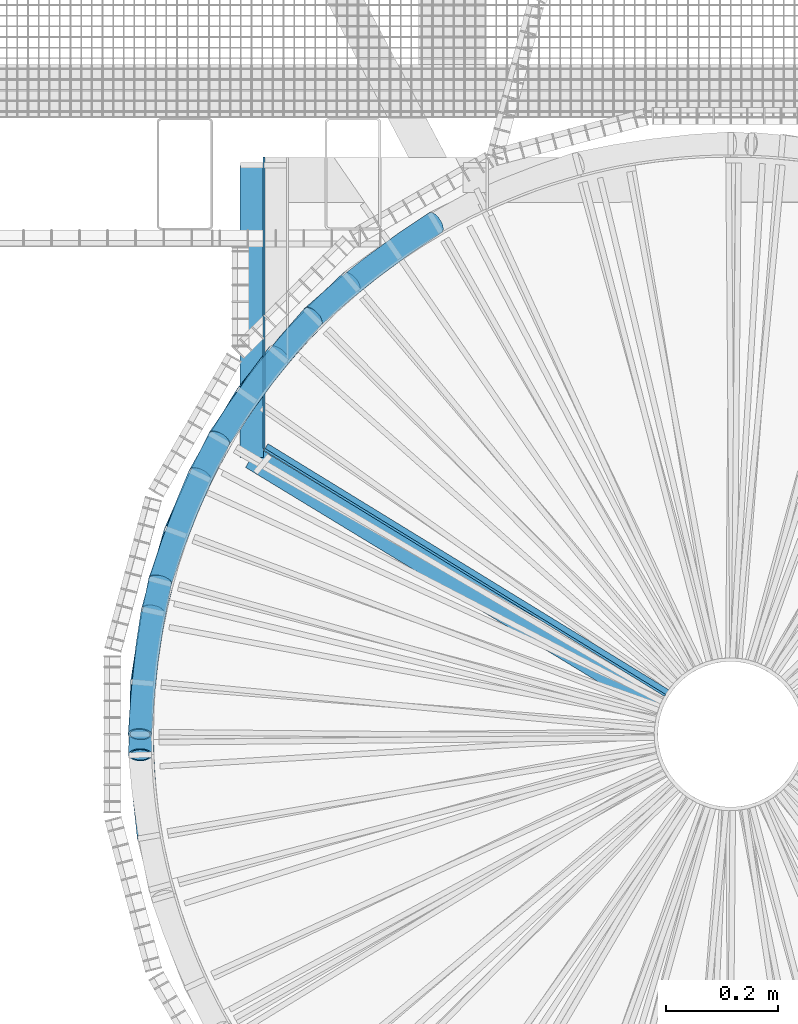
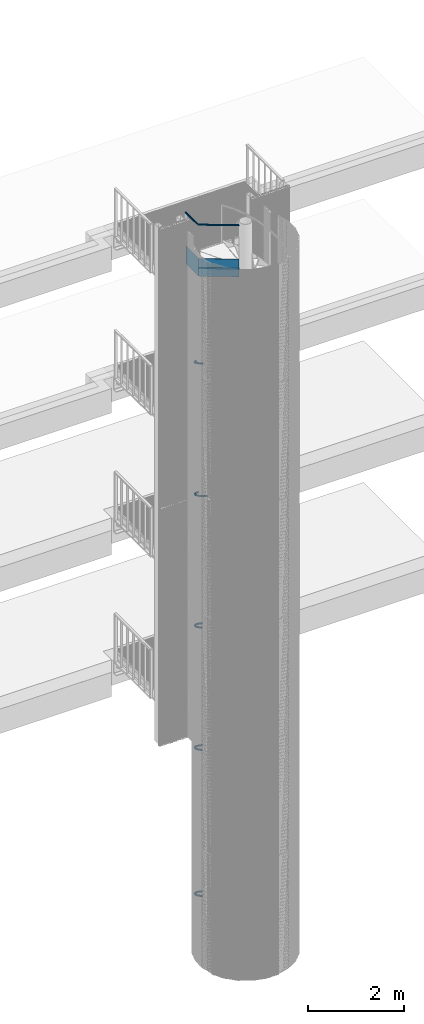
# One storey, part 223 of 1183: 19 members, 5 beams, 23 elements without a shape of their own.
"""IFC2X3 building model written with IfcOpenShell, lengths in millimetres."""

from ifc_helpers import new_model, entity, si_unit, frame, origin_with_axes, origin_2d_with_axis, place, context, subcontext, project, spatial, polyline, rectangle, hollow_circle, outline, extrude, boolean, material, type_object, element, aggregate, save


model = new_model("IFC2X3")

# Units and contexts
model_context = context("Model", 3, precision=1e-05, world=origin_with_axes())
body_context = subcontext(model_context, "Body", "Model", "MODEL_VIEW")
ifc_project = project(units=[si_unit("LENGTHUNIT", "METRE", prefix="MILLI"), si_unit("AREAUNIT", "SQUARE_METRE"), si_unit("VOLUMEUNIT", "CUBIC_METRE"), si_unit("MASSUNIT", "GRAM", prefix="KILO"), si_unit("TIMEUNIT", "SECOND"), si_unit("PLANEANGLEUNIT", "RADIAN"), si_unit("SOLIDANGLEUNIT", "STERADIAN"), si_unit("THERMODYNAMICTEMPERATUREUNIT", "DEGREE_CELSIUS"), si_unit("LUMINOUSINTENSITYUNIT", "LUMEN")], contexts=[model_context])

# Site, building, storey
site_placement = place(None, origin_with_axes())
site = spatial("IfcSite", under=ifc_project, at=site_placement, Name="Undefined", CompositionType="ELEMENT")
building_placement = place(site_placement, origin_with_axes())
building = spatial("IfcBuilding", under=site, at=building_placement, Name="Undefined", CompositionType="ELEMENT")
storey_placement = place(building_placement, origin_with_axes())
storey = spatial("IfcBuildingStorey", under=building, at=storey_placement, Name="Undefined", CompositionType="ELEMENT", Elevation=0.0)

# Assembly, beam
assembly_1_placement = place(storey_placement, origin_with_axes())
assembly_1 = element("IfcElementAssembly", 1, at=assembly_1_placement, inside=storey, Name="MAIN_COURANTE", AssemblyPlace="NOTDEFINED", PredefinedType="NOTDEFINED")
ifc_material = material(Name="STEEL/S235JR")
beam_type_1 = type_object("IfcBeamType", Name="TUBE-42.4*3.2", PredefinedType="NOTDEFINED")
beam_1_placement = place(assembly_1_placement, frame((-84.9748462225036, 26.4035149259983, 18389.8400000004), z_axis=(-0.51937688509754, -0.854545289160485, 0.0), x_axis=(-0.854545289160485, 0.51937688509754, 0.0)))
beam_1 = element("IfcBeam", 2, at=beam_1_placement, type_object=beam_type_1, material=ifc_material, Name="MAIN_COURANTE", context=body_context, shape_type="CSG", body=[
    boolean("DIFFERENCE", extrude(hollow_circle(Radius=21.200000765, WallThickness=3.200000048, at=origin_2d_with_axis()), frame((900.837210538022, 0.0, 0.0), z_axis=(-1.0, 0.0, 0.0), x_axis=(0.0, -1.0, 0.0)), (0.0, 0.0, 1.0), 900.84), extrude(outline(polyline([(0.0, 0.0), (30.5663019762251, -4.91127138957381e-11), (60.366242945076, 6.80164206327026), (87.9055294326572, 20.0638634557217), (111.803226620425, 39.1216410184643), (130.861004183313, 63.0193382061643), (144.123225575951, 90.5586246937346), (150.9248676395, 120.358565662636), (150.924867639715, 150.924867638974), (144.123225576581, 180.724808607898), (130.86100418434, 208.264095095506), (111.803226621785, 232.161792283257), (87.9055294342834, 251.219569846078), (60.3662429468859, 264.481791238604), (30.5663019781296, 271.283433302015), (1.90266291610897e-09, 271.28343330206), (-29.7999409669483, 264.481791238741), (-57.3392274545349, 251.219569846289), (-81.2369246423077, 232.161792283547), (-100.294702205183, 208.26409509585), (-113.556923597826, 180.724808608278), (-120.35856566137, 150.92486763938), (-120.358565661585, 120.358565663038), (-113.556923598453, 90.5586246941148), (-100.294702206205, 63.0193382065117), (-81.2369246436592, 39.1216410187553), (-57.3392274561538, 20.0638634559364), (-29.7999409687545, 6.80164206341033), (0.0, 0.0)])), frame((32.0484067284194, 24.0, 46.3938862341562), z_axis=(0.0, -1.0, 0.0), x_axis=(-0.591879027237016, 0.0, 0.806026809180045)), (0.0, 0.0, 1.0), 48.0)),
])
aggregate(assembly_1, [beam_1])

assembly_2_placement = place(storey_placement, origin_with_axes())
assembly_2 = element("IfcElementAssembly", 3, at=assembly_2_placement, inside=storey, Name="MAIN_COURANTE", AssemblyPlace="NOTDEFINED", PredefinedType="NOTDEFINED")
beam_2_placement = place(assembly_2_placement, frame((-854.781040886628, 494.277539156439, 18389.8400000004), z_axis=(-0.999999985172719, -0.000172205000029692, 0.0), x_axis=(-0.000172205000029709, 0.999999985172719, 0.0)))
beam_2 = element("IfcBeam", 4, at=beam_2_placement, type_object=beam_type_1, material=ifc_material, Name="MAIN_COURANTE", context=body_context, shape_type="SweptSolid", body=[
    extrude(hollow_circle(Radius=21.200000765, WallThickness=3.200000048, at=origin_2d_with_axis()), frame((521.092468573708, 3.63797880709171e-12, 0.0), z_axis=(-1.0, 0.0, 0.0), x_axis=(0.0, -1.0, 0.0)), (0.0, 0.0, 1.0), 521.09),
])
aggregate(assembly_2, [beam_2])

assembly_3_placement = place(storey_placement, origin_with_axes())
assembly_3 = element("IfcElementAssembly", 5, at=assembly_3_placement, inside=storey, Name="POTEAU", AssemblyPlace="NOTDEFINED", PredefinedType="NOTDEFINED")
beam_type_2 = type_object("IfcBeamType", Name="PL10*40", PredefinedType="NOTDEFINED")
beam_3_placement = place(assembly_3_placement, frame((-68.8944826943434, 48.1595929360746, 17265.96), z_axis=(0.0, 0.0, 1.0), x_axis=(-0.852231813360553, 0.523164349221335, 0.0)))
beam_3 = element("IfcBeam", 6, at=beam_3_placement, type_object=beam_type_2, material=ifc_material, Name="RAIDISSEUR", context=body_context, shape_type="CSG", body=[
    boolean("DIFFERENCE", extrude(rectangle(XDim=10.0, YDim=40.0, at=origin_2d_with_axis()), frame((891.021953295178, 1.8684510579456e-12, 3.63797880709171e-12), z_axis=(-1.0, 0.0, 0.0), x_axis=(0.0, -1.0, 0.0)), (0.0, 0.0, 1.0), 891.02), extrude(outline(polyline([(0.0, 0.0), (30.5663019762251, -4.91127138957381e-11), (60.366242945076, 6.80164206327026), (87.9055294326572, 20.0638634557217), (111.803226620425, 39.1216410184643), (130.861004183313, 63.0193382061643), (144.123225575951, 90.5586246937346), (150.9248676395, 120.358565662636), (150.924867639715, 150.924867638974), (144.123225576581, 180.724808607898), (130.86100418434, 208.264095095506), (111.803226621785, 232.161792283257), (87.9055294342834, 251.219569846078), (60.3662429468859, 264.481791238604), (30.5663019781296, 271.283433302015), (1.90266291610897e-09, 271.28343330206), (-29.7999409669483, 264.481791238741), (-57.3392274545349, 251.219569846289), (-81.2369246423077, 232.161792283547), (-100.294702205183, 208.26409509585), (-113.556923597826, 180.724808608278), (-120.35856566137, 150.92486763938), (-120.358565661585, 120.358565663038), (-113.556923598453, 90.5586246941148), (-100.294702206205, 63.0193382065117), (-81.2369246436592, 39.1216410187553), (-57.3392274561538, 20.0638634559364), (-29.7999409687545, 6.80164206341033), (0.0, 0.0)])), frame((34.1643821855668, 73.4895589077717, -22.5), z_axis=(0.0, 0.0, 1.0), x_axis=(-0.595450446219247, 0.803392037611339, 0.0)), (0.0, 0.0, 1.0), 45.0)),
])

assembly_4_placement = place(storey_placement, origin_with_axes())
assembly_4 = element("IfcElementAssembly", 7, at=assembly_4_placement, inside=storey, AssemblyPlace="NOTDEFINED", PredefinedType="NOTDEFINED")
beam_type_3 = type_object("IfcBeamType", Name="PLT4*450", PredefinedType="NOTDEFINED")
beam_4_placement = place(assembly_4_placement, frame((-61.5022689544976, 35.4079653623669, 17289.84), z_axis=(0.0, 0.0, 1.0), x_axis=(-0.852229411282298, 0.523168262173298, 0.0)))
beam_4 = element("IfcBeam", 8, at=beam_4_placement, type_object=beam_type_3, material=ifc_material, Name="GARDE_PIED", context=body_context, shape_type="CSG", body=[
    boolean("DIFFERENCE", extrude(rectangle(XDim=4.0, YDim=450.0, at=origin_2d_with_axis()), frame((903.993020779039, 0.0, 0.0), z_axis=(-1.0, 0.0, 0.0), x_axis=(0.0, -1.0, 0.0)), (0.0, 0.0, 1.0), 903.99), extrude(outline(polyline([(0.0, 0.0), (30.5663019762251, -4.91127138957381e-11), (60.366242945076, 6.80164206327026), (87.9055294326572, 20.0638634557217), (111.803226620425, 39.1216410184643), (130.861004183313, 63.0193382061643), (144.123225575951, 90.5586246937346), (150.9248676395, 120.358565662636), (150.924867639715, 150.924867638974), (144.123225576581, 180.724808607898), (130.86100418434, 208.264095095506), (111.803226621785, 232.161792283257), (87.9055294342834, 251.219569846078), (60.3662429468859, 264.481791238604), (30.5663019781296, 271.283433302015), (1.90266291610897e-09, 271.28343330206), (-29.7999409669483, 264.481791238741), (-57.3392274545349, 251.219569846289), (-81.2369246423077, 232.161792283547), (-100.294702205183, 208.26409509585), (-113.556923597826, 180.724808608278), (-120.35856566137, 150.92486763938), (-120.358565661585, 120.358565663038), (-113.556923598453, 90.5586246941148), (-100.294702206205, 63.0193382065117), (-81.2369246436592, 39.1216410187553), (-57.3392274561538, 20.0638634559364), (-29.7999409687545, 6.80164206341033), (0.0, 0.0)])), frame((47.1351535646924, 66.489775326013, -227.5), z_axis=(0.0, 0.0, 1.0), x_axis=(-0.595454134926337, 0.803389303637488, 0.0)), (0.0, 0.0, 1.0), 455.0)),
])
aggregate(assembly_4, [beam_4])

# Beam
beam_5_placement = place(assembly_3_placement, frame((-832.864575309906, 510.050600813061, 17289.84), z_axis=(0.0, 0.0, 1.0), x_axis=(-1.04319999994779e-05, 0.999999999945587, 0.0)))
beam_5 = element("IfcBeam", 9, at=beam_5_placement, type_object=beam_type_3, material=ifc_material, Name="GARDE_PIED", context=body_context, shape_type="SweptSolid", body=[
    extrude(rectangle(XDim=4.0, YDim=450.0, at=origin_2d_with_axis()), frame((519.965544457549, 3.63797880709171e-12, 0.0), z_axis=(-1.0, 0.0, 0.0), x_axis=(0.0, -1.0, 0.0)), (0.0, 0.0, 1.0), 519.97),
])

aggregate(assembly_3, [beam_3, beam_5])

# Assembly, member
assembly_5_placement = place(storey_placement, origin_with_axes())
assembly_5 = element("IfcElementAssembly", 10, at=assembly_5_placement, inside=storey, Name="MONTANT", AssemblyPlace="NOTDEFINED", PredefinedType="NOTDEFINED")
member_type = type_object("IfcMemberType", Name="TUBE-42.4*3.2", PredefinedType="NOTDEFINED")
member_1_placement = place(assembly_5_placement, frame((-1018.08582091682, 272.795273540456, 5272.03999999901), z_axis=(-0.991444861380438, 0.130526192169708, 6.66032065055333e-11), x_axis=(-0.113807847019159, -0.864456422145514, 0.489655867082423)))
member_1 = element("IfcMember", 11, at=member_1_placement, type_object=member_type, material=ifc_material, Name="MAIN_COURANTE", context=body_context, shape_type="SweptSolid", body=[
    entity("IfcRevolvedAreaSolid", entity("IfcCircleHollowProfileDef", "AREA", None, entity("IfcAxis2Placement2D", entity("IfcCartesianPoint", [0.0, 0.0]), entity("IfcDirection", [1.0, 0.0])), 21.200000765, 3.200000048), entity("IfcAxis2Placement3D", entity("IfcCartesianPoint", [315.568566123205, -9.09494701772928e-13, -1.31255851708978e-15]), entity("IfcDirection", [-0.997194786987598, -4.44488503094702e-18, 0.0748502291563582]), entity("IfcDirection", [0.0, -1.0, 0.0])), entity("IfcAxis1Placement", entity("IfcCartesianPoint", [0.0, -2108.0, 0.0]), entity("IfcDirection", [1.0, 0.0, 0.0])), 0.149840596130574),
])
aggregate(assembly_5, [member_1])

assembly_6_placement = place(storey_placement, origin_with_axes())
assembly_6 = element("IfcElementAssembly", 12, at=assembly_6_placement, inside=storey, Name="MONTANT", AssemblyPlace="NOTDEFINED", PredefinedType="NOTDEFINED")
member_2_placement = place(assembly_6_placement, frame((-912.79077557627, 526.999999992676, 5117.51999999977), z_axis=(-0.923879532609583, 0.382683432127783, 1.50203049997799e-10), x_axis=(-0.333667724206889, -0.805545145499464, 0.489655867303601)))
member_2 = element("IfcMember", 13, at=member_2_placement, type_object=member_type, material=ifc_material, Name="MAIN_COURANTE", context=body_context, shape_type="SweptSolid", body=[
    entity("IfcRevolvedAreaSolid", entity("IfcCircleHollowProfileDef", "AREA", None, entity("IfcAxis2Placement2D", entity("IfcCartesianPoint", [0.0, 0.0]), entity("IfcDirection", [1.0, 0.0])), 21.200000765, 3.200000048), entity("IfcAxis2Placement3D", entity("IfcCartesianPoint", [315.568566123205, -9.09494701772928e-13, -1.31255851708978e-15]), entity("IfcDirection", [-0.997194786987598, -4.44488503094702e-18, 0.0748502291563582]), entity("IfcDirection", [0.0, -1.0, 0.0])), entity("IfcAxis1Placement", entity("IfcCartesianPoint", [0.0, -2108.0, 0.0]), entity("IfcDirection", [1.0, 0.0, 0.0])), 0.149840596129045),
])
aggregate(assembly_6, [member_2])

assembly_7_placement = place(storey_placement, origin_with_axes())
assembly_7 = element("IfcElementAssembly", 14, at=assembly_7_placement, inside=storey, Name="MONTANT", AssemblyPlace="NOTDEFINED", PredefinedType="NOTDEFINED")
member_3_placement = place(assembly_7_placement, frame((-745.290547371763, 745.290547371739, 4963.00000000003), z_axis=(-0.793353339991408, 0.608761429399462, 1.80913048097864e-10), x_axis=(-0.53078869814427, -0.691737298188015, 0.489655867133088)))
member_3 = element("IfcMember", 15, at=member_3_placement, type_object=member_type, material=ifc_material, Name="MAIN_COURANTE", context=body_context, shape_type="SweptSolid", body=[
    entity("IfcRevolvedAreaSolid", entity("IfcCircleHollowProfileDef", "AREA", None, entity("IfcAxis2Placement2D", entity("IfcCartesianPoint", [0.0, 0.0]), entity("IfcDirection", [1.0, 0.0])), 21.200000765, 3.200000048), entity("IfcAxis2Placement3D", entity("IfcCartesianPoint", [315.568566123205, -9.09494701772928e-13, -1.31255851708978e-15]), entity("IfcDirection", [-0.997194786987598, -4.44488503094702e-18, 0.0748502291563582]), entity("IfcDirection", [0.0, -1.0, 0.0])), entity("IfcAxis1Placement", entity("IfcCartesianPoint", [0.0, -2108.0, 0.0]), entity("IfcDirection", [1.0, 0.0, 0.0])), 0.149840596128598),
])
aggregate(assembly_7, [member_3])

assembly_8_placement = place(storey_placement, origin_with_axes())
assembly_8 = element("IfcElementAssembly", 16, at=assembly_8_placement, inside=storey, Name="MONTANT", AssemblyPlace="NOTDEFINED", PredefinedType="NOTDEFINED")
member_4_placement = place(assembly_8_placement, frame((-527.000000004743, 912.790775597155, 4808.47999999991), z_axis=(-0.608761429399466, 0.793353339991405, -1.80915321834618e-10), x_axis=(-0.691737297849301, -0.530788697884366, 0.489655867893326)))
member_4 = element("IfcMember", 17, at=member_4_placement, type_object=member_type, material=ifc_material, Name="MAIN_COURANTE", context=body_context, shape_type="SweptSolid", body=[
    entity("IfcRevolvedAreaSolid", entity("IfcCircleHollowProfileDef", "AREA", None, entity("IfcAxis2Placement2D", entity("IfcCartesianPoint", [0.0, 0.0]), entity("IfcDirection", [1.0, 0.0])), 21.200000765, 3.200000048), entity("IfcAxis2Placement3D", entity("IfcCartesianPoint", [315.568566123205, -9.09494701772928e-13, -1.31255851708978e-15]), entity("IfcDirection", [-0.997194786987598, -4.44488503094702e-18, 0.0748502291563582]), entity("IfcDirection", [0.0, -1.0, 0.0])), entity("IfcAxis1Placement", entity("IfcCartesianPoint", [0.0, -2108.0, 0.0]), entity("IfcDirection", [1.0, 0.0, 0.0])), 0.149840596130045),
])
aggregate(assembly_8, [member_4])

assembly_9_placement = place(storey_placement, origin_with_axes())
assembly_9 = element("IfcElementAssembly", 18, at=assembly_9_placement, inside=storey, Name="MONTANT", AssemblyPlace="NOTDEFINED", PredefinedType="NOTDEFINED")
member_5_placement = place(assembly_9_placement, frame((-1018.08582091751, 272.795273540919, 8372.60000000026), z_axis=(-0.991444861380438, 0.130526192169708, 6.66032065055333e-11), x_axis=(-0.113454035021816, -0.861768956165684, 0.494451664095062)))
member_5 = element("IfcMember", 19, at=member_5_placement, type_object=member_type, material=ifc_material, Name="MAIN_COURANTE", context=body_context, shape_type="SweptSolid", body=[
    entity("IfcRevolvedAreaSolid", entity("IfcCircleHollowProfileDef", "AREA", None, entity("IfcAxis2Placement2D", entity("IfcCartesianPoint", [0.0, 0.0]), entity("IfcDirection", [1.0, 0.0])), 21.200000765, 3.200000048), entity("IfcAxis2Placement3D", entity("IfcCartesianPoint", [316.552681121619, 9.09494701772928e-13, -1.82569453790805e-12]), entity("IfcDirection", [-0.997177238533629, 2.1263748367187e-18, 0.0750836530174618]), entity("IfcDirection", [0.0, -1.0, 0.0])), entity("IfcAxis1Placement", entity("IfcCartesianPoint", [0.0, -2108.0, 0.0]), entity("IfcDirection", [1.0, 0.0, 0.0])), 0.150308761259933),
])
aggregate(assembly_9, [member_5])

assembly_10_placement = place(storey_placement, origin_with_axes())
assembly_10 = element("IfcElementAssembly", 20, at=assembly_10_placement, inside=storey, Name="MONTANT", AssemblyPlace="NOTDEFINED", PredefinedType="NOTDEFINED")
member_6_placement = place(assembly_10_placement, frame((-912.79077559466, 527.000000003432, 8216.07999999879), z_axis=(-0.923879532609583, 0.382683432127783, 1.50203049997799e-10), x_axis=(-0.332630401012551, -0.803040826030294, 0.494451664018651)))
member_6 = element("IfcMember", 21, at=member_6_placement, type_object=member_type, material=ifc_material, Name="MAIN_COURANTE", context=body_context, shape_type="SweptSolid", body=[
    entity("IfcRevolvedAreaSolid", entity("IfcCircleHollowProfileDef", "AREA", None, entity("IfcAxis2Placement2D", entity("IfcCartesianPoint", [0.0, 0.0]), entity("IfcDirection", [1.0, 0.0])), 21.200000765, 3.200000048), entity("IfcAxis2Placement3D", entity("IfcCartesianPoint", [316.552681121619, 9.09494701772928e-13, -1.82569453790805e-12]), entity("IfcDirection", [-0.997177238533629, 2.1263748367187e-18, 0.0750836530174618]), entity("IfcDirection", [0.0, -1.0, 0.0])), entity("IfcAxis1Placement", entity("IfcCartesianPoint", [0.0, -2108.0, 0.0]), entity("IfcDirection", [1.0, 0.0, 0.0])), 0.150308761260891),
])
aggregate(assembly_10, [member_6])

assembly_11_placement = place(storey_placement, origin_with_axes())
assembly_11 = element("IfcElementAssembly", 22, at=assembly_11_placement, inside=storey, Name="MONTANT", AssemblyPlace="NOTDEFINED", PredefinedType="NOTDEFINED")
member_7_placement = place(assembly_11_placement, frame((-745.290547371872, 745.290547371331, 8059.55999999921), z_axis=(-0.793353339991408, 0.608761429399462, 1.80913048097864e-10), x_axis=(-0.5291385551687, -0.689586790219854, 0.49445166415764)))
member_7 = element("IfcMember", 23, at=member_7_placement, type_object=member_type, material=ifc_material, Name="MAIN_COURANTE", context=body_context, shape_type="SweptSolid", body=[
    entity("IfcRevolvedAreaSolid", entity("IfcCircleHollowProfileDef", "AREA", None, entity("IfcAxis2Placement2D", entity("IfcCartesianPoint", [0.0, 0.0]), entity("IfcDirection", [1.0, 0.0])), 21.200000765, 3.200000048), entity("IfcAxis2Placement3D", entity("IfcCartesianPoint", [316.552681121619, 9.09494701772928e-13, -1.82569453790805e-12]), entity("IfcDirection", [-0.997177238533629, 2.1263748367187e-18, 0.0750836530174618]), entity("IfcDirection", [0.0, -1.0, 0.0])), entity("IfcAxis1Placement", entity("IfcCartesianPoint", [0.0, -2108.0, 0.0]), entity("IfcDirection", [1.0, 0.0, 0.0])), 0.150308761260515),
])
aggregate(assembly_11, [member_7])

assembly_12_placement = place(storey_placement, origin_with_axes())
assembly_12 = element("IfcElementAssembly", 24, at=assembly_12_placement, inside=storey, Name="MONTANT", AssemblyPlace="NOTDEFINED", PredefinedType="NOTDEFINED")
member_8_placement = place(assembly_12_placement, frame((-1049.98921176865, 91.8621528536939, 11816.0800000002), z_axis=(-0.999048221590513, -0.0436193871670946, 1.05123035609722e-10), x_axis=(0.0379141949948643, -0.868377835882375, 0.494451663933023)))
member_8 = element("IfcMember", 25, at=member_8_placement, type_object=member_type, material=ifc_material, Name="MAIN_COURANTE", context=body_context, shape_type="SweptSolid", body=[
    entity("IfcRevolvedAreaSolid", entity("IfcCircleHollowProfileDef", "AREA", None, entity("IfcAxis2Placement2D", entity("IfcCartesianPoint", [0.0, 0.0]), entity("IfcDirection", [1.0, 0.0])), 21.200000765, 3.200000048), entity("IfcAxis2Placement3D", entity("IfcCartesianPoint", [316.552681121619, 9.09494701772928e-13, -1.82569453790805e-12]), entity("IfcDirection", [-0.997177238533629, 2.1263748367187e-18, 0.0750836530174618]), entity("IfcDirection", [0.0, -1.0, 0.0])), entity("IfcAxis1Placement", entity("IfcCartesianPoint", [0.0, -2108.0, 0.0]), entity("IfcDirection", [1.0, 0.0, 0.0])), 0.15030876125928),
])
aggregate(assembly_12, [member_8])

assembly_13_placement = place(storey_placement, origin_with_axes())
assembly_13 = element("IfcElementAssembly", 26, at=assembly_13_placement, inside=storey, Name="MONTANT", AssemblyPlace="NOTDEFINED", PredefinedType="NOTDEFINED")
member_9_placement = place(assembly_13_placement, frame((-990.43602230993, 360.489231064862, 11659.5600000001), z_axis=(-0.97629600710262, 0.216439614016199, 3.63797880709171e-12), x_axis=(-0.188130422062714, -0.848601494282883, 0.494451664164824)))
member_9 = element("IfcMember", 27, at=member_9_placement, type_object=member_type, material=ifc_material, Name="MAIN_COURANTE", context=body_context, shape_type="SweptSolid", body=[
    entity("IfcRevolvedAreaSolid", entity("IfcCircleHollowProfileDef", "AREA", None, entity("IfcAxis2Placement2D", entity("IfcCartesianPoint", [0.0, 0.0]), entity("IfcDirection", [1.0, 0.0])), 21.200000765, 3.200000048), entity("IfcAxis2Placement3D", entity("IfcCartesianPoint", [316.552681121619, 9.09494701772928e-13, -1.82569453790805e-12]), entity("IfcDirection", [-0.997177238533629, 2.1263748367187e-18, 0.0750836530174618]), entity("IfcDirection", [0.0, -1.0, 0.0])), entity("IfcAxis1Placement", entity("IfcCartesianPoint", [0.0, -2108.0, 0.0]), entity("IfcDirection", [1.0, 0.0, 0.0])), 0.150308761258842),
])
aggregate(assembly_13, [member_9])

assembly_14_placement = place(storey_placement, origin_with_axes())
assembly_14 = element("IfcElementAssembly", 28, at=assembly_14_placement, inside=storey, Name="MONTANT", AssemblyPlace="NOTDEFINED", PredefinedType="NOTDEFINED")
member_10_placement = place(assembly_14_placement, frame((-1018.08582091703, 272.79527354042, 1563.55999999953), z_axis=(-0.991444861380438, 0.130526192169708, 6.66032065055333e-11), x_axis=(-0.113807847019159, -0.864456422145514, 0.489655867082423)))
member_10 = element("IfcMember", 29, at=member_10_placement, type_object=member_type, material=ifc_material, Name="MAIN_COURANTE", context=body_context, shape_type="SweptSolid", body=[
    entity("IfcRevolvedAreaSolid", entity("IfcCircleHollowProfileDef", "AREA", None, entity("IfcAxis2Placement2D", entity("IfcCartesianPoint", [0.0, 0.0]), entity("IfcDirection", [1.0, 0.0])), 21.200000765, 3.200000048), entity("IfcAxis2Placement3D", entity("IfcCartesianPoint", [315.568566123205, -9.09494701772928e-13, -1.31255851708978e-15]), entity("IfcDirection", [-0.997194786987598, -4.44488503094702e-18, 0.0748502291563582]), entity("IfcDirection", [0.0, -1.0, 0.0])), entity("IfcAxis1Placement", entity("IfcCartesianPoint", [0.0, -2108.0, 0.0]), entity("IfcDirection", [1.0, 0.0, 0.0])), 0.149840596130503),
])
aggregate(assembly_14, [member_10])

assembly_15_placement = place(storey_placement, origin_with_axes())
assembly_15 = element("IfcElementAssembly", 30, at=assembly_15_placement, inside=storey, Name="MONTANT", AssemblyPlace="NOTDEFINED", PredefinedType="NOTDEFINED")
member_11_placement = place(assembly_15_placement, frame((-912.790775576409, 526.999999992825, 1409.03999999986), z_axis=(-0.923879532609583, 0.382683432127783, 1.50203049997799e-10), x_axis=(-0.333667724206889, -0.805545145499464, 0.489655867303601)))
member_11 = element("IfcMember", 31, at=member_11_placement, type_object=member_type, material=ifc_material, Name="MAIN_COURANTE", context=body_context, shape_type="SweptSolid", body=[
    entity("IfcRevolvedAreaSolid", entity("IfcCircleHollowProfileDef", "AREA", None, entity("IfcAxis2Placement2D", entity("IfcCartesianPoint", [0.0, 0.0]), entity("IfcDirection", [1.0, 0.0])), 21.200000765, 3.200000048), entity("IfcAxis2Placement3D", entity("IfcCartesianPoint", [315.568566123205, -9.09494701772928e-13, -1.31255851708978e-15]), entity("IfcDirection", [-0.997194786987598, -4.44488503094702e-18, 0.0748502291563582]), entity("IfcDirection", [0.0, -1.0, 0.0])), entity("IfcAxis1Placement", entity("IfcCartesianPoint", [0.0, -2108.0, 0.0]), entity("IfcDirection", [1.0, 0.0, 0.0])), 0.149840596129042),
])
aggregate(assembly_15, [member_11])

assembly_16_placement = place(storey_placement, origin_with_axes())
assembly_16 = element("IfcElementAssembly", 32, at=assembly_16_placement, inside=storey, Name="MONTANT", AssemblyPlace="NOTDEFINED", PredefinedType="NOTDEFINED")
member_12_placement = place(assembly_16_placement, frame((-745.290547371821, 745.290547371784, 1254.51999999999), z_axis=(-0.793353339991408, 0.608761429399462, 1.80913048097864e-10), x_axis=(-0.53078869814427, -0.691737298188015, 0.489655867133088)))
member_12 = element("IfcMember", 33, at=member_12_placement, type_object=member_type, material=ifc_material, Name="MAIN_COURANTE", context=body_context, shape_type="SweptSolid", body=[
    entity("IfcRevolvedAreaSolid", entity("IfcCircleHollowProfileDef", "AREA", None, entity("IfcAxis2Placement2D", entity("IfcCartesianPoint", [0.0, 0.0]), entity("IfcDirection", [1.0, 0.0])), 21.200000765, 3.200000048), entity("IfcAxis2Placement3D", entity("IfcCartesianPoint", [315.568566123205, -9.09494701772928e-13, -1.31255851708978e-15]), entity("IfcDirection", [-0.997194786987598, -4.44488503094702e-18, 0.0748502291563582]), entity("IfcDirection", [0.0, -1.0, 0.0])), entity("IfcAxis1Placement", entity("IfcCartesianPoint", [0.0, -2108.0, 0.0]), entity("IfcDirection", [1.0, 0.0, 0.0])), 0.14984059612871),
])
aggregate(assembly_16, [member_12])

assembly_17_placement = place(storey_placement, origin_with_axes())
assembly_17 = element("IfcElementAssembly", 34, at=assembly_17_placement, inside=storey, Name="MONTANT", AssemblyPlace="NOTDEFINED", PredefinedType="NOTDEFINED")
member_13_placement = place(assembly_17_placement, frame((-527.000000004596, 912.790775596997, 1100.00000000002), z_axis=(-0.608761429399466, 0.793353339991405, -1.80915321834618e-10), x_axis=(-0.691737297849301, -0.530788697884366, 0.489655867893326)))
member_13 = element("IfcMember", 35, at=member_13_placement, type_object=member_type, material=ifc_material, Name="MAIN_COURANTE", context=body_context, shape_type="SweptSolid", body=[
    entity("IfcRevolvedAreaSolid", entity("IfcCircleHollowProfileDef", "AREA", None, entity("IfcAxis2Placement2D", entity("IfcCartesianPoint", [0.0, 0.0]), entity("IfcDirection", [1.0, 0.0])), 21.200000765, 3.200000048), entity("IfcAxis2Placement3D", entity("IfcCartesianPoint", [315.568566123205, -9.09494701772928e-13, -1.31255851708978e-15]), entity("IfcDirection", [-0.997194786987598, -4.44488503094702e-18, 0.0748502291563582]), entity("IfcDirection", [0.0, -1.0, 0.0])), entity("IfcAxis1Placement", entity("IfcCartesianPoint", [0.0, -2108.0, 0.0]), entity("IfcDirection", [1.0, 0.0, 0.0])), 0.149840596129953),
])
aggregate(assembly_17, [member_13])

assembly_18_placement = place(storey_placement, origin_with_axes())
assembly_18 = element("IfcElementAssembly", 36, at=assembly_18_placement, inside=storey, Name="MONTANT", AssemblyPlace="NOTDEFINED", PredefinedType="NOTDEFINED")
member_14_placement = place(assembly_18_placement, frame((-527.000000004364, 912.790775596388, 7903.04000000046), z_axis=(-0.608761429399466, 0.793353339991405, -1.80915321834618e-10), x_axis=(-0.689586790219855, -0.529138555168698, 0.494451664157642)))
member_14 = element("IfcMember", 37, at=member_14_placement, type_object=member_type, material=ifc_material, Name="MAIN_COURANTE", context=body_context, shape_type="SweptSolid", body=[
    entity("IfcRevolvedAreaSolid", entity("IfcCircleHollowProfileDef", "AREA", None, entity("IfcAxis2Placement2D", entity("IfcCartesianPoint", [0.0, 0.0]), entity("IfcDirection", [1.0, 0.0])), 21.200000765, 3.200000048), entity("IfcAxis2Placement3D", entity("IfcCartesianPoint", [316.552681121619, 9.09494701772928e-13, -1.82569453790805e-12]), entity("IfcDirection", [-0.997177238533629, 2.1263748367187e-18, 0.0750836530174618]), entity("IfcDirection", [0.0, -1.0, 0.0])), entity("IfcAxis1Placement", entity("IfcCartesianPoint", [0.0, -2108.0, 0.0]), entity("IfcDirection", [1.0, 0.0, 0.0])), 0.150308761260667),
])
aggregate(assembly_18, [member_14])

assembly_19_placement = place(storey_placement, origin_with_axes())
assembly_19 = element("IfcElementAssembly", 38, at=assembly_19_placement, inside=storey, Name="MONTANT", AssemblyPlace="NOTDEFINED", PredefinedType="NOTDEFINED")
member_15_placement = place(assembly_19_placement, frame((-677.498140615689, 807.410843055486, 11346.520000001), z_axis=(-0.737277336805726, 0.675590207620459, 8.45193426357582e-11), x_axis=(-0.587226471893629, -0.640845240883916, 0.494451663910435)))
member_15 = element("IfcMember", 39, at=member_15_placement, type_object=member_type, material=ifc_material, Name="MAIN_COURANTE", context=body_context, shape_type="SweptSolid", body=[
    entity("IfcRevolvedAreaSolid", entity("IfcCircleHollowProfileDef", "AREA", None, entity("IfcAxis2Placement2D", entity("IfcCartesianPoint", [0.0, 0.0]), entity("IfcDirection", [1.0, 0.0])), 21.200000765, 3.200000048), entity("IfcAxis2Placement3D", entity("IfcCartesianPoint", [316.552681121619, 9.09494701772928e-13, -1.82569453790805e-12]), entity("IfcDirection", [-0.997177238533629, 2.1263748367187e-18, 0.0750836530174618]), entity("IfcDirection", [0.0, -1.0, 0.0])), entity("IfcAxis1Placement", entity("IfcCartesianPoint", [0.0, -2108.0, 0.0]), entity("IfcDirection", [1.0, 0.0, 0.0])), 0.150308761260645),
])
aggregate(assembly_19, [member_15])

assembly_20_placement = place(storey_placement, origin_with_axes())
assembly_20 = element("IfcElementAssembly", 40, at=assembly_20_placement, inside=storey, Name="MONTANT", AssemblyPlace="NOTDEFINED", PredefinedType="NOTDEFINED")
member_16_placement = place(assembly_20_placement, frame((-863.386254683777, 604.549563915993, 11503.0399999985), z_axis=(-0.887010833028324, 0.461748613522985, -2.56448402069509e-10), x_axis=(-0.401354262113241, -0.770994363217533, 0.494451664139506)))
member_16 = element("IfcMember", 41, at=member_16_placement, type_object=member_type, material=ifc_material, Name="MAIN_COURANTE", context=body_context, shape_type="SweptSolid", body=[
    entity("IfcRevolvedAreaSolid", entity("IfcCircleHollowProfileDef", "AREA", None, entity("IfcAxis2Placement2D", entity("IfcCartesianPoint", [0.0, 0.0]), entity("IfcDirection", [1.0, 0.0])), 21.200000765, 3.200000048), entity("IfcAxis2Placement3D", entity("IfcCartesianPoint", [316.552681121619, 9.09494701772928e-13, -1.82569453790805e-12]), entity("IfcDirection", [-0.997177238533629, 2.1263748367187e-18, 0.0750836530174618]), entity("IfcDirection", [0.0, -1.0, 0.0])), entity("IfcAxis1Placement", entity("IfcCartesianPoint", [0.0, -2108.0, 0.0]), entity("IfcDirection", [1.0, 0.0, 0.0])), 0.150308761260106),
])
aggregate(assembly_20, [member_16])

assembly_21_placement = place(storey_placement, origin_with_axes())
assembly_21 = element("IfcElementAssembly", 42, at=assembly_21_placement, inside=storey, Name="MONTANT", AssemblyPlace="NOTDEFINED", PredefinedType="NOTDEFINED")
member_17_placement = place(assembly_21_placement, frame((-947.32892479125, 462.043188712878, 14946.5199999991), z_axis=(-0.945518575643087, 0.32556815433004, -2.60921297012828e-10), x_axis=(-0.278029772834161, -0.807457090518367, 0.520300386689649)))
member_17 = element("IfcMember", 43, at=member_17_placement, type_object=member_type, material=ifc_material, Name="MAIN_COURANTE", context=body_context, shape_type="SweptSolid", body=[
    entity("IfcRevolvedAreaSolid", entity("IfcCircleHollowProfileDef", "AREA", None, entity("IfcAxis2Placement2D", entity("IfcCartesianPoint", [0.0, 0.0]), entity("IfcDirection", [1.0, 0.0])), 21.200000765, 3.200000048), entity("IfcAxis2Placement3D", entity("IfcCartesianPoint", [300.826222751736, 9.26193911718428e-13, -2.55538133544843e-15]), entity("IfcDirection", [-0.997451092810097, -5.56582410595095e-17, 0.0713534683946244]), entity("IfcDirection", [0.0, -1.0, 0.0])), entity("IfcAxis1Placement", entity("IfcCartesianPoint", [0.0, -2108.0, 0.0]), entity("IfcDirection", [1.0, 0.0, 0.0])), 0.142828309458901),
])
aggregate(assembly_21, [member_17])

assembly_22_placement = place(storey_placement, origin_with_axes())
assembly_22 = element("IfcElementAssembly", 44, at=assembly_22_placement, inside=storey, Name="MONTANT", AssemblyPlace="NOTDEFINED", PredefinedType="NOTDEFINED")
member_18_placement = place(assembly_22_placement, frame((-1030.96757117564, 219.138922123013, 15103.0400000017), z_axis=(-0.996194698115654, 0.0871557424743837, 3.25160726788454e-10), x_axis=(-0.0744295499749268, -0.850733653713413, 0.520300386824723)))
member_18 = element("IfcMember", 45, at=member_18_placement, type_object=member_type, material=ifc_material, Name="MAIN_COURANTE", context=body_context, shape_type="SweptSolid", body=[
    entity("IfcRevolvedAreaSolid", entity("IfcCircleHollowProfileDef", "AREA", None, entity("IfcAxis2Placement2D", entity("IfcCartesianPoint", [0.0, 0.0]), entity("IfcDirection", [1.0, 0.0])), 21.200000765, 3.200000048), entity("IfcAxis2Placement3D", entity("IfcCartesianPoint", [300.826222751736, 9.26193911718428e-13, -2.55538133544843e-15]), entity("IfcDirection", [-0.997451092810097, -5.56582410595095e-17, 0.0713534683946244]), entity("IfcDirection", [0.0, -1.0, 0.0])), entity("IfcAxis1Placement", entity("IfcCartesianPoint", [0.0, -2108.0, 0.0]), entity("IfcDirection", [1.0, 0.0, 0.0])), 0.14282830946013),
])
aggregate(assembly_22, [member_18])

assembly_23_placement = place(storey_placement, origin_with_axes())
assembly_23 = element("IfcElementAssembly", 46, at=assembly_23_placement, inside=storey, Name="MONTANT", AssemblyPlace="NOTDEFINED", PredefinedType="NOTDEFINED")
member_19_placement = place(assembly_23_placement, frame((-807.410843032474, 677.498140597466, 14789.9999999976), z_axis=(-0.838670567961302, 0.544639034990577, -8.02538124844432e-12), x_axis=(-0.465112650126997, -0.716210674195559, 0.520300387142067)))
member_19 = element("IfcMember", 47, at=member_19_placement, type_object=member_type, material=ifc_material, Name="MAIN_COURANTE", context=body_context, shape_type="SweptSolid", body=[
    entity("IfcRevolvedAreaSolid", entity("IfcCircleHollowProfileDef", "AREA", None, entity("IfcAxis2Placement2D", entity("IfcCartesianPoint", [0.0, 0.0]), entity("IfcDirection", [1.0, 0.0])), 21.200000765, 3.200000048), entity("IfcAxis2Placement3D", entity("IfcCartesianPoint", [300.826222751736, 9.26193911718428e-13, -2.55538133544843e-15]), entity("IfcDirection", [-0.997451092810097, -5.56582410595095e-17, 0.0713534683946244]), entity("IfcDirection", [0.0, -1.0, 0.0])), entity("IfcAxis1Placement", entity("IfcCartesianPoint", [0.0, -2108.0, 0.0]), entity("IfcDirection", [1.0, 0.0, 0.0])), 0.142828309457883),
])
aggregate(assembly_23, [member_19])

save(model, "model.ifc")
